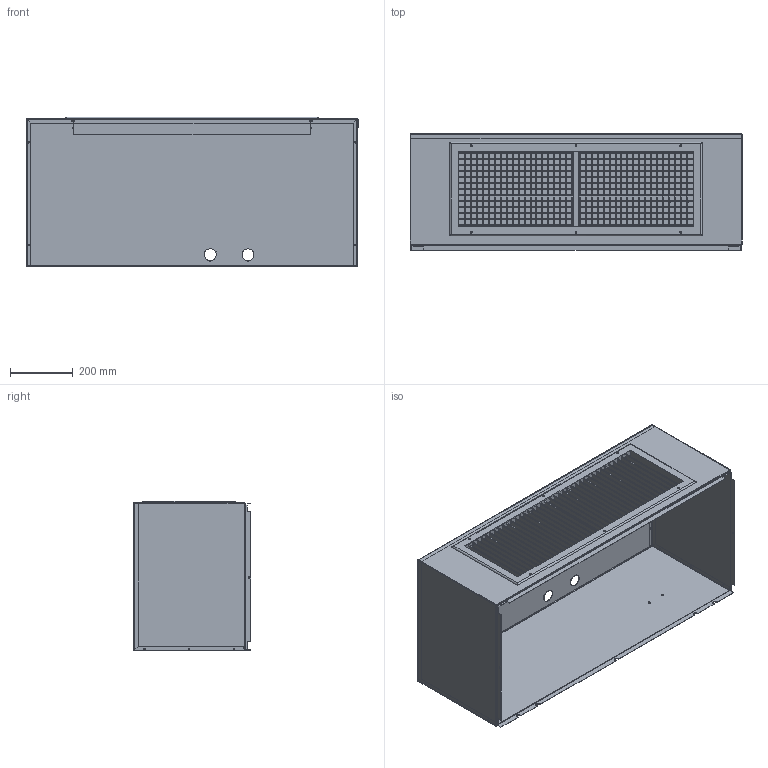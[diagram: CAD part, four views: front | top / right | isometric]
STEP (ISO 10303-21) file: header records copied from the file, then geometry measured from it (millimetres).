
FILE_DESCRIPTION (( 'STEP AP214' ), '1' );
FILE_NAME ('QPBHW42-F-X-MOD.STEP', '2016-07-14T18:28:29', ( 'BMC' ), ( 'Bard Manufacturing Co., Inc.' ), 'SwSTEP 2.0', 'SolidWorks 2016', '' );
FILE_SCHEMA (( 'AUTOMOTIVE_DESIGN' ));
Length unit declared in the file: inch
Products named in the file (7): QPBHW42-F-X-MOD; 114-112; 7051-057 louver; 7051-057; 7051-057 louver2; 7051-057 frame; 108-139
Assembly tree (55 placements, depth 3):
  QPBHW42-F-X-MOD
    114-112
    108-139
    7051-057
      7051-057 frame
      7051-057 louver  x13
      7051-057 louver2  x38
Bounding box: 1060.45 x 373.72 x 478.63 mm (x, y, z)
Surface area: 4240867.8 mm2 (no closed solid volume)
Topology: 0 solids, 54 shells, 1054 faces, 2783 edges, 1838 vertices
Faces by surface type: plane 570, cylinder 464, bspline 20
Entity records: 20364 total; most frequent: CARTESIAN_POINT 3932, DIRECTION 3493, ORIENTED_EDGE 3214, EDGE_CURVE 1607, AXIS2_PLACEMENT_3D 1327, VERTEX_POINT 1054, EDGE_LOOP 875, VECTOR 839
